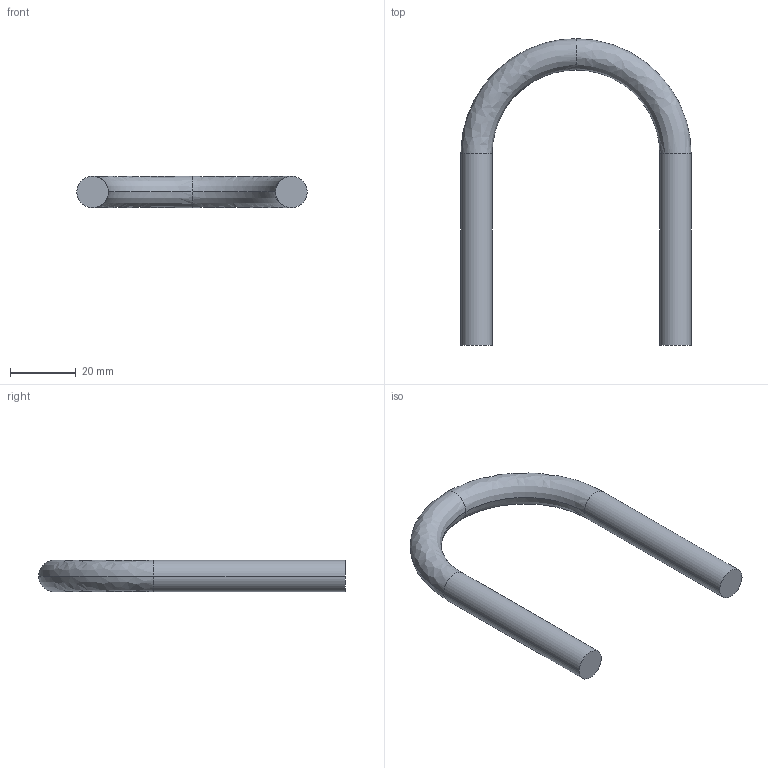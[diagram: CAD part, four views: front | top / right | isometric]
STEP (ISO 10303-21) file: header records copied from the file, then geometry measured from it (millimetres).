
FILE_DESCRIPTION(('TurboCAD Mac Pro'),'Build 980');
FILE_NAME('FUB-150.stp',' ',(''),(''),'ACIS Interop','IMSI','TurboCAD Mac Pro BY IMSI, INCORPORATED');
FILE_SCHEMA(('automotive_design'));
Length unit declared in the file: inch
Products named in the file (2): 1; 2
Bounding box: 69.85 x 93.03 x 9.53 mm (x, y, z)
Volume: 15021.6 mm3; surface area: 6453.5 mm2
Topology: 1 solids, 1 shells, 10 faces, 18 edges, 10 vertices
Faces by surface type: bspline 4, cylinder 4, plane 2
Entity records: 676 total; most frequent: CARTESIAN_POINT 330, DIRECTION 42, ORIENTED_EDGE 36, AXIS2_PLACEMENT_3D 18, EDGE_CURVE 18, STYLED_ITEM 15, PRESENTATION_STYLE_ASSIGNMENT 15, COLOUR_RGB 15
